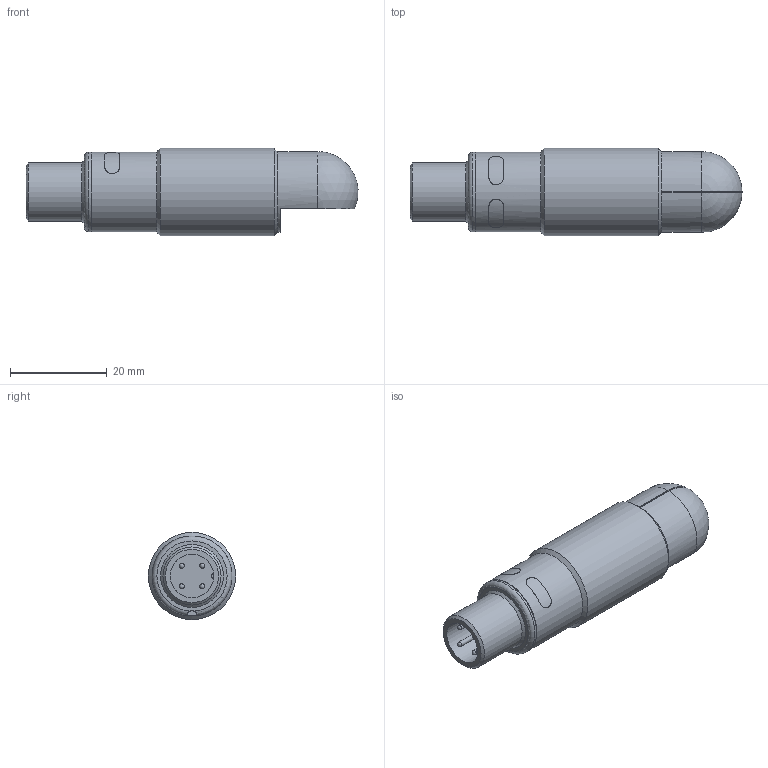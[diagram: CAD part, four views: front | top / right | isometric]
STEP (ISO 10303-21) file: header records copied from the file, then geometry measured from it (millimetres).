
FILE_DESCRIPTION((''),'2;1');
FILE_NAME('J:\Projekte\Kunststoff-Blechteile\Zeichnungen\Bibliothek Inventor\3D Solids\nero\STP\pico+25\nero-25_WK_X.stp','2012-02-27T13:30:24',('Oliver Liedtke'),(''),'Autodesk Inventor 2009','Autodesk Inventor 2009','');
FILE_SCHEMA(('AUTOMOTIVE_DESIGN { 1 0 10303 214 1 1 1 1 }'));
Length unit declared in the file: millimetre
Products named in the file (1): nero-25_WK_X
Bounding box: 68.58 x 18 x 18 mm (x, y, z)
Volume: 12753.7 mm3; surface area: 4043.1 mm2
Topology: 1 solids, 1 shells, 61 faces, 138 edges, 83 vertices
Faces by surface type: plane 24, cylinder 18, cone 8, sphere 6, bspline 4, torus 1
Full cylindrical faces by diameter (mm): 1 x4, 8 x1, 9 x1, 12 x1, 14 x1, 16.3 x1, 16.5 x2, 18 x1
Entity records: 3709 total; most frequent: CARTESIAN_POINT 2366, DIRECTION 268, ORIENTED_EDGE 218, AXIS2_PLACEMENT_3D 115, EDGE_CURVE 109, EDGE_LOOP 90, VERTEX_POINT 79, FACE_OUTER_BOUND 61
